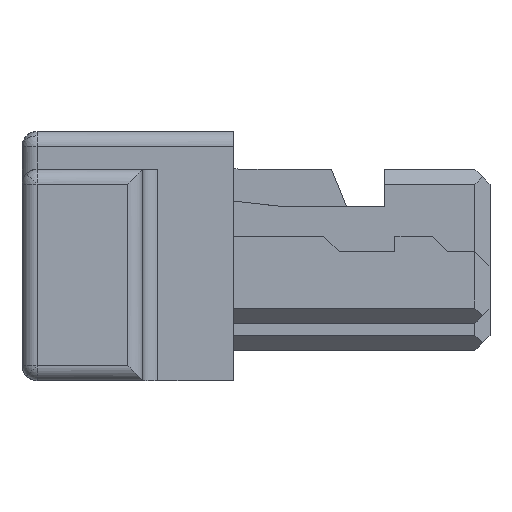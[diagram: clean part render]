
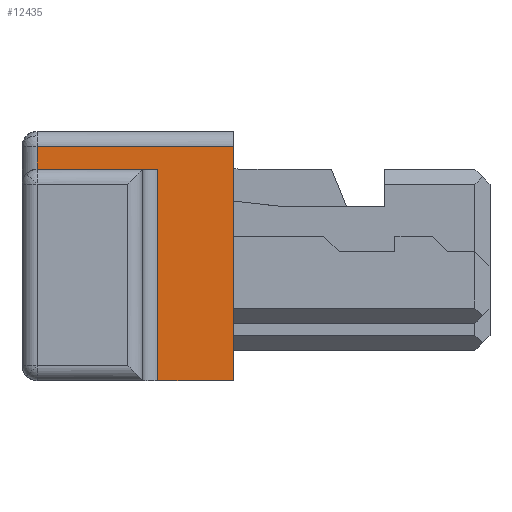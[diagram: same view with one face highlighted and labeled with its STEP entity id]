
A CAD part, front view. The second image highlights one B-rep face of the part: STEP entity #12435.
In plain terms, the highlighted planar face has unit normal (0, -1, 0).
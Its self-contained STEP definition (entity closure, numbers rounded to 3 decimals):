
#159=DIRECTION('',(0.,0.,1.));
#160=VECTOR('',#159,1.4);
#161=CARTESIAN_POINT('',(0.9,-6.8,-0.825));
#162=LINE('',#161,#160);
#163=DIRECTION('',(1.,0.,0.));
#164=VECTOR('',#163,0.5);
#165=CARTESIAN_POINT('',(0.9,-6.8,-0.825));
#166=LINE('',#165,#164);
#167=DIRECTION('',(1.,0.,0.));
#168=VECTOR('',#167,0.8);
#169=CARTESIAN_POINT('',(0.1,-6.8,0.575));
#170=LINE('',#169,#168);
#171=DIRECTION('',(0.,0.,1.));
#172=VECTOR('',#171,0.15);
#173=CARTESIAN_POINT('',(0.1,-6.8,0.575));
#174=LINE('',#173,#172);
#431=DIRECTION('',(0.,0.,-1.));
#432=VECTOR('',#431,1.55);
#433=CARTESIAN_POINT('',(1.4,-6.8,0.725));
#434=LINE('',#433,#432);
#9145=DIRECTION('',(1.,0.,0.));
#9146=VECTOR('',#9145,1.3);
#9147=CARTESIAN_POINT('',(0.1,-6.8,0.725));
#9148=LINE('',#9147,#9146);
#9193=CARTESIAN_POINT('',(0.1,-6.8,0.575));
#9194=VERTEX_POINT('',#9193);
#9195=CARTESIAN_POINT('',(0.9,-6.8,0.575));
#9196=VERTEX_POINT('',#9195);
#9482=CARTESIAN_POINT('',(0.9,-6.8,-0.825));
#9483=VERTEX_POINT('',#9482);
#9484=CARTESIAN_POINT('',(1.4,-6.8,-0.825));
#9485=VERTEX_POINT('',#9484);
#9494=CARTESIAN_POINT('',(0.1,-6.8,0.725));
#9495=CARTESIAN_POINT('',(1.4,-6.8,0.725));
#9496=VERTEX_POINT('',#9494);
#9497=VERTEX_POINT('',#9495);
#12419=CARTESIAN_POINT('',(0.75,-6.8,-0.05));
#12420=DIRECTION('',(0.,1.,0.));
#12421=DIRECTION('',(-1.,0.,0.));
#12422=AXIS2_PLACEMENT_3D('',#12419,#12420,#12421);
#12423=PLANE('',#12422);
#12425=ORIENTED_EDGE('',*,*,#12424,.T.);
#12427=ORIENTED_EDGE('',*,*,#12426,.T.);
#12429=ORIENTED_EDGE('',*,*,#12428,.T.);
#12430=ORIENTED_EDGE('',*,*,#12389,.F.);
#12431=ORIENTED_EDGE('',*,*,#12413,.T.);
#12432=ORIENTED_EDGE('',*,*,#11927,.F.);
#12433=EDGE_LOOP('',(#12425,#12427,#12429,#12430,#12431,#12432));
#12434=FACE_OUTER_BOUND('',#12433,.F.);
#12435=ADVANCED_FACE('',(#12434),#12423,.F.);
#11927=EDGE_CURVE('',#9194,#9196,#170,.T.);
#12389=EDGE_CURVE('',#9483,#9485,#166,.T.);
#12413=EDGE_CURVE('',#9483,#9196,#162,.T.);
#12424=EDGE_CURVE('',#9194,#9496,#174,.T.);
#12426=EDGE_CURVE('',#9496,#9497,#9148,.T.);
#12428=EDGE_CURVE('',#9497,#9485,#434,.T.);
